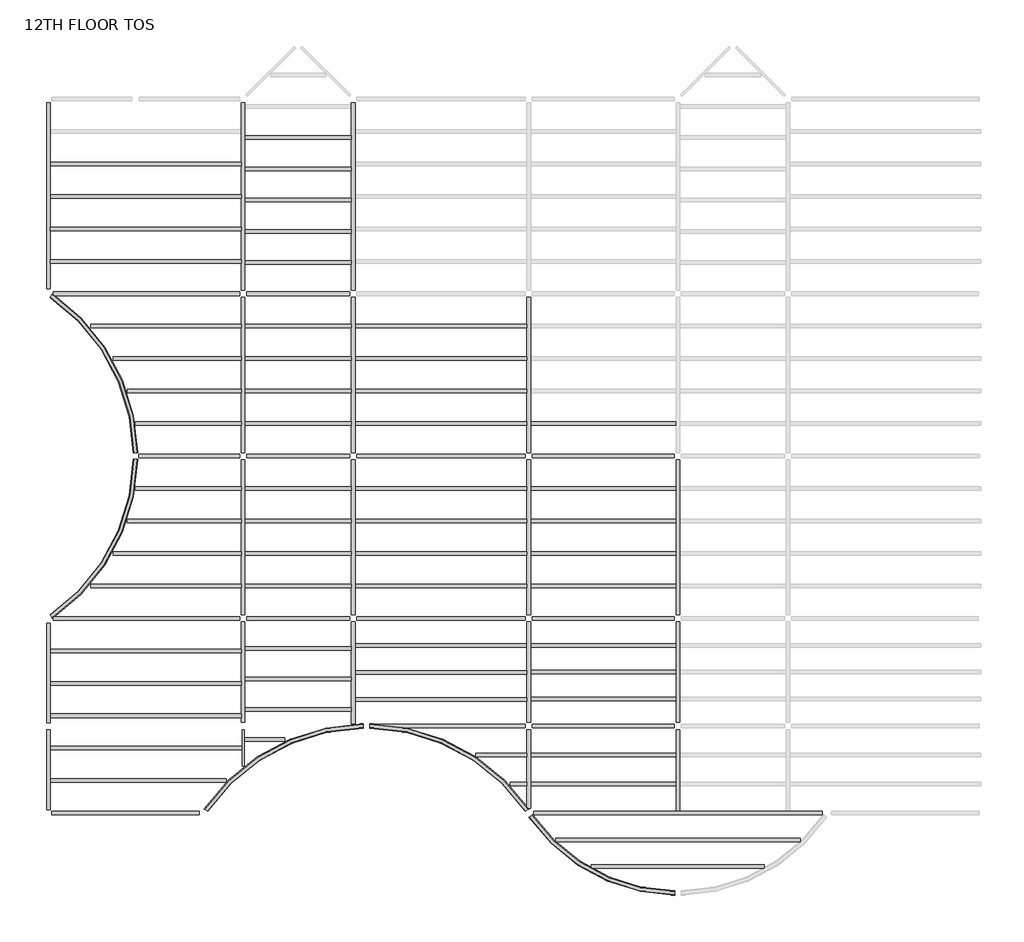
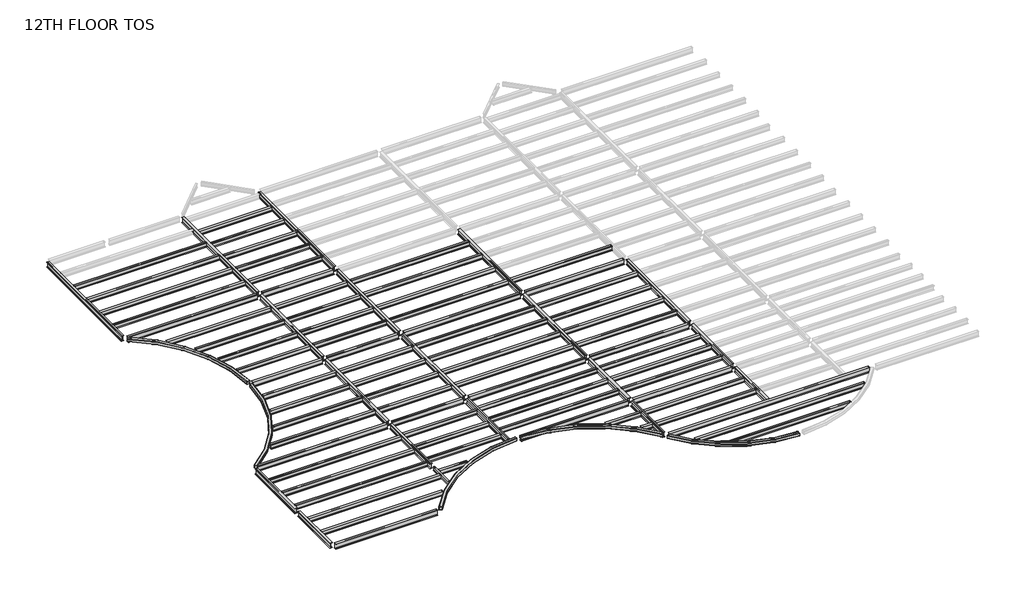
# One storey, part 1 of 2: 97 beams.
"""IFC4 building model written with IfcOpenShell, lengths in millimetres."""

from ifc_helpers import new_model, si_unit, origin, place, context, project, spatial, transform, mapped, element, save
from components import m_hss_square_hss203_2x203_2x9_5_914ff4eb, m_hss_square_hss203_2x203_2x9_5_0e3d8e6e, m_hss_square_hss203_2x203_2x9_5_16dc1c03, m_hss_square_hss203_2x203_2x9_5_18346204, m_hss_square_hss203_2x203_2x9_5_d5f1e8c4, ub_universal_beams_ub254x102x28_4e7f3726, ub_universal_beams_ub305x165x40_c4d0385b, ub_universal_beams_ub305x165x40_d3abc31d, ub_universal_beams_ub305x165x40_0c73730f, ub_universal_beams_ub305x165x40_2a963f0c, ub_universal_beams_ub305x165x40_0a5f2f96, ub_universal_beams_ub305x165x40_d1f7c369, ub_universal_beams_ub305x165x40_83d7b7d5, ub_universal_beams_ub305x165x40_729a4ea5, ub_universal_beams_ub305x165x40_71dfa851, ub_universal_beams_ub305x165x40_619b5398, ub_universal_beams_ub305x165x40_c3492db1, ub_universal_beams_ub305x165x40_8f1c350d, ub_universal_beams_ub305x165x40_3afb5f90, ub_universal_beams_ub305x165x40_767d1929, ub_universal_beams_ub305x165x40_5941ca45, ub_universal_beams_ub356x171x51_ef72dcdd, ub_universal_beams_ub356x171x51_7f80702c, ub_universal_beams_ub356x171x51_dfc36663, ub_universal_beams_ub356x171x51_405a853e, ub_universal_beams_ub356x171x51_e47b7055, ub_universal_beams_ub356x171x51_e97f8d2e, ub_universal_beams_ub356x171x51_11d6b780, ub_universal_beams_ub356x171x51_76b2d20b, ub_universal_beams_ub356x171x51_145ecd4b, ub_universal_beams_ub356x171x51_c7dff8d2, ub_universal_beams_ub356x171x51_834c6e34, ub_universal_beams_ub356x171x51_a38b99de, ub_universal_beams_ub356x171x51_d8f4cdde, ub_universal_beams_ub356x171x51_8094f821, ub_universal_beams_ub356x171x51_c03c70fb, ub_universal_beams_ub356x171x51_e661f2e4, ub_universal_beams_ub356x171x51_3ee91673, ub_universal_beams_ub356x171x51_a871b283, ub_universal_beams_ub356x171x51_741bae58

model = new_model("IFC4")

# Units and contexts
model_context = context("Model", 3, world=origin())
ifc_project = project(units=[si_unit("LENGTHUNIT", "METRE", prefix="MILLI")], contexts=[model_context])

# Site, building, storey
site = spatial("IfcSite", under=ifc_project)
building = spatial("IfcBuilding", under=site)
storey = spatial("IfcBuildingStorey", under=building, Name="12TH FLOOR TOS", Elevation=54711.6)

# Beams
placement = place(None, origin())
m_hss_square_hss203_2x203_2x9_5_shape = m_hss_square_hss203_2x203_2x9_5_914ff4eb(model_context)
element("IfcBeam", 1, ObjectType="M_HSS Square : HSS203.2X203.2X9.5", at=placement, inside=storey, context=model_context, shape_type="MappedRepresentation", body=[
    mapped(m_hss_square_hss203_2x203_2x9_5_shape, transform((22710.575, 155.575, 54610.1), x_axis=(-0.552849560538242, 0.8332810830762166, 0.0), y_axis=(-0.8332810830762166, -0.552849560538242, 0.0), z_axis=(0.0, 0.0, 1.0))),
])
m_hss_square_hss203_2x203_2x9_5_2_shape = m_hss_square_hss203_2x203_2x9_5_0e3d8e6e(model_context)
element("IfcBeam", 2, ObjectType="M_HSS Square : HSS203.2X203.2X9.5", at=placement, inside=storey, context=model_context, shape_type="MappedRepresentation", body=[
    mapped(m_hss_square_hss203_2x203_2x9_5_2_shape, transform((155.575, 9299.575, 54610.1), x_axis=(0.8332810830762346, 0.5528495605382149, 0.0), y_axis=(-0.5528495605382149, 0.8332810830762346, 0.0), z_axis=(0.0, 0.0, 1.0))),
])
m_hss_square_hss203_2x203_2x9_5_3_shape = m_hss_square_hss203_2x203_2x9_5_16dc1c03(model_context)
element("IfcBeam", 3, ObjectType="M_HSS Square : HSS203.2X203.2X9.5", at=placement, inside=storey, context=model_context, shape_type="MappedRepresentation", body=[
    mapped(m_hss_square_hss203_2x203_2x9_5_3_shape, transform((155.575, 24539.575, 54610.1), x_axis=(0.8332810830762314, -0.5528495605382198, 0.0), y_axis=(0.5528495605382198, 0.8332810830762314, 0.0), z_axis=(0.0, 0.0, 1.0))),
])
m_hss_square_hss203_2x203_2x9_5_4_shape = m_hss_square_hss203_2x203_2x9_5_18346204(model_context)
element("IfcBeam", 4, ObjectType="M_HSS Square : HSS203.2X203.2X9.5", at=placement, inside=storey, context=model_context, shape_type="MappedRepresentation", body=[
    mapped(m_hss_square_hss203_2x203_2x9_5_4_shape, transform((29734.7266693, -3601.398624, 54610.1), x_axis=(-0.9999968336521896, -0.0025164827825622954, 0.0), y_axis=(0.0025164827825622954, -0.9999968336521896, 0.0), z_axis=(0.0, 0.0, 1.0))),
])
m_hss_square_hss203_2x203_2x9_5_5_shape = m_hss_square_hss203_2x203_2x9_5_d5f1e8c4(model_context)
element("IfcBeam", 5, ObjectType="M_HSS Square : HSS203.2X203.2X9.5", at=placement, inside=storey, context=model_context, shape_type="MappedRepresentation", body=[
    mapped(m_hss_square_hss203_2x203_2x9_5_5_shape, transform((15096.4572854, 4244.5731081, 54610.1), x_axis=(-0.9999997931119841, 0.0006432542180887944, 0.0), y_axis=(-0.0006432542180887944, -0.9999997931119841, 0.0), z_axis=(0.0, 0.0, 1.0))),
])
ub_universal_beams_ub254x102x28_shape = ub_universal_beams_ub254x102x28_4e7f3726(model_context)
element("IfcBeam", 6, ObjectType="UB-Universal Beams : UB254x102x28", at=placement, inside=storey, context=model_context, shape_type="MappedRepresentation", body=[
    mapped(ub_universal_beams_ub254x102x28_shape, transform((9299.575, 3210.915913, 54581.4), x_axis=(0.0, -1.0, 0.0), y_axis=(1.0, 0.0, 0.0), z_axis=(0.0, 0.0, 1.0))),
])
ub_universal_beams_ub305x165x40_shape = ub_universal_beams_ub305x165x40_c4d0385b(model_context)
element("IfcBeam", 7, ObjectType="UB-Universal Beams : UB305x165x40", at=placement, inside=storey, context=model_context, shape_type="MappedRepresentation", body=[
    mapped(ub_universal_beams_ub305x165x40_shape, transform((4727.575, 30635.575, 54559.9), x_axis=(1.0, 0.0, 0.0), y_axis=(0.0, 1.0, 0.0), z_axis=(0.0, 0.0, 1.0))),
])
element("IfcBeam", 8, ObjectType="UB-Universal Beams : UB305x165x40", at=placement, inside=storey, context=model_context, shape_type="MappedRepresentation", body=[
    mapped(ub_universal_beams_ub305x165x40_shape, transform((4727.575, 29111.575, 54559.9), x_axis=(1.0, 0.0, 0.0), y_axis=(0.0, 1.0, 0.0), z_axis=(0.0, 0.0, 1.0))),
])
element("IfcBeam", 9, ObjectType="UB-Universal Beams : UB305x165x40", at=placement, inside=storey, context=model_context, shape_type="MappedRepresentation", body=[
    mapped(ub_universal_beams_ub305x165x40_shape, transform((4727.575, 27587.575, 54559.9), x_axis=(1.0, 0.0, 0.0), y_axis=(0.0, 1.0, 0.0), z_axis=(0.0, 0.0, 1.0))),
])
element("IfcBeam", 10, ObjectType="UB-Universal Beams : UB305x165x40", at=placement, inside=storey, context=model_context, shape_type="MappedRepresentation", body=[
    mapped(ub_universal_beams_ub305x165x40_shape, transform((4727.575, 26063.575, 54559.9), x_axis=(1.0, 0.0, 0.0), y_axis=(0.0, 1.0, 0.0), z_axis=(0.0, 0.0, 1.0))),
])
element("IfcBeam", 11, ObjectType="UB-Universal Beams : UB305x165x40", at=placement, inside=storey, context=model_context, shape_type="MappedRepresentation", body=[
    mapped(ub_universal_beams_ub305x165x40_shape, transform((4727.575, 4727.575, 54559.9), x_axis=(-1.0, 0.0, 0.0), y_axis=(0.0, -1.0, 0.0), z_axis=(0.0, 0.0, 1.0))),
])
element("IfcBeam", 12, ObjectType="UB-Universal Beams : UB305x165x40", at=placement, inside=storey, context=model_context, shape_type="MappedRepresentation", body=[
    mapped(ub_universal_beams_ub305x165x40_shape, transform((4727.575, 6251.575, 54559.9), x_axis=(-1.0, 0.0, 0.0), y_axis=(0.0, -1.0, 0.0), z_axis=(0.0, 0.0, 1.0))),
])
element("IfcBeam", 13, ObjectType="UB-Universal Beams : UB305x165x40", at=placement, inside=storey, context=model_context, shape_type="MappedRepresentation", body=[
    mapped(ub_universal_beams_ub305x165x40_shape, transform((4727.575, 7775.575, 54559.9), x_axis=(-1.0, 0.0, 0.0), y_axis=(0.0, -1.0, 0.0), z_axis=(0.0, 0.0, 1.0))),
])
ub_universal_beams_ub305x165x40_2_shape = ub_universal_beams_ub305x165x40_d3abc31d(model_context)
element("IfcBeam", 14, ObjectType="UB-Universal Beams : UB305x165x40", at=placement, inside=storey, context=model_context, shape_type="MappedRepresentation", body=[
    mapped(ub_universal_beams_ub305x165x40_2_shape, transform((11885.575, 31870.825, 54559.9), x_axis=(1.0, 0.0, 0.0), y_axis=(0.0, 1.0, 0.0), z_axis=(0.0, 0.0, 1.0))),
])
element("IfcBeam", 15, ObjectType="UB-Universal Beams : UB305x165x40", at=placement, inside=storey, context=model_context, shape_type="MappedRepresentation", body=[
    mapped(ub_universal_beams_ub305x165x40_2_shape, transform((11885.575, 30404.575, 54559.9), x_axis=(1.0, 0.0, 0.0), y_axis=(0.0, 1.0, 0.0), z_axis=(0.0, 0.0, 1.0))),
])
element("IfcBeam", 16, ObjectType="UB-Universal Beams : UB305x165x40", at=placement, inside=storey, context=model_context, shape_type="MappedRepresentation", body=[
    mapped(ub_universal_beams_ub305x165x40_2_shape, transform((11885.575, 28938.325, 54559.9), x_axis=(1.0, 0.0, 0.0), y_axis=(0.0, 1.0, 0.0), z_axis=(0.0, 0.0, 1.0))),
])
element("IfcBeam", 17, ObjectType="UB-Universal Beams : UB305x165x40", at=placement, inside=storey, context=model_context, shape_type="MappedRepresentation", body=[
    mapped(ub_universal_beams_ub305x165x40_2_shape, transform((11885.575, 27472.075, 54559.9), x_axis=(1.0, 0.0, 0.0), y_axis=(0.0, 1.0, 0.0), z_axis=(0.0, 0.0, 1.0))),
])
element("IfcBeam", 18, ObjectType="UB-Universal Beams : UB305x165x40", at=placement, inside=storey, context=model_context, shape_type="MappedRepresentation", body=[
    mapped(ub_universal_beams_ub305x165x40_2_shape, transform((11885.575, 26005.825, 54559.9), x_axis=(1.0, 0.0, 0.0), y_axis=(0.0, 1.0, 0.0), z_axis=(0.0, 0.0, 1.0))),
])
element("IfcBeam", 19, ObjectType="UB-Universal Beams : UB305x165x40", at=placement, inside=storey, context=model_context, shape_type="MappedRepresentation", body=[
    mapped(ub_universal_beams_ub305x165x40_2_shape, transform((11885.575, 23015.575, 54559.9), x_axis=(1.0, 0.0, 0.0), y_axis=(0.0, 1.0, 0.0), z_axis=(0.0, 0.0, 1.0))),
])
element("IfcBeam", 20, ObjectType="UB-Universal Beams : UB305x165x40", at=placement, inside=storey, context=model_context, shape_type="MappedRepresentation", body=[
    mapped(ub_universal_beams_ub305x165x40_2_shape, transform((11885.575, 21491.575, 54559.9), x_axis=(1.0, 0.0, 0.0), y_axis=(0.0, 1.0, 0.0), z_axis=(0.0, 0.0, 1.0))),
])
element("IfcBeam", 21, ObjectType="UB-Universal Beams : UB305x165x40", at=placement, inside=storey, context=model_context, shape_type="MappedRepresentation", body=[
    mapped(ub_universal_beams_ub305x165x40_2_shape, transform((11885.575, 19967.575, 54559.9), x_axis=(1.0, 0.0, 0.0), y_axis=(0.0, 1.0, 0.0), z_axis=(0.0, 0.0, 1.0))),
])
element("IfcBeam", 22, ObjectType="UB-Universal Beams : UB305x165x40", at=placement, inside=storey, context=model_context, shape_type="MappedRepresentation", body=[
    mapped(ub_universal_beams_ub305x165x40_2_shape, transform((11885.575, 18443.575, 54559.9), x_axis=(1.0, 0.0, 0.0), y_axis=(0.0, 1.0, 0.0), z_axis=(0.0, 0.0, 1.0))),
])
element("IfcBeam", 23, ObjectType="UB-Universal Beams : UB305x165x40", at=placement, inside=storey, context=model_context, shape_type="MappedRepresentation", body=[
    mapped(ub_universal_beams_ub305x165x40_2_shape, transform((11885.575, 15395.575, 54559.9), x_axis=(1.0, 0.0, 0.0), y_axis=(0.0, 1.0, 0.0), z_axis=(0.0, 0.0, 1.0))),
])
element("IfcBeam", 24, ObjectType="UB-Universal Beams : UB305x165x40", at=placement, inside=storey, context=model_context, shape_type="MappedRepresentation", body=[
    mapped(ub_universal_beams_ub305x165x40_2_shape, transform((11885.575, 13871.575, 54559.9), x_axis=(1.0, 0.0, 0.0), y_axis=(0.0, 1.0, 0.0), z_axis=(0.0, 0.0, 1.0))),
])
element("IfcBeam", 25, ObjectType="UB-Universal Beams : UB305x165x40", at=placement, inside=storey, context=model_context, shape_type="MappedRepresentation", body=[
    mapped(ub_universal_beams_ub305x165x40_2_shape, transform((11885.575, 12347.575, 54559.9), x_axis=(1.0, 0.0, 0.0), y_axis=(0.0, 1.0, 0.0), z_axis=(0.0, 0.0, 1.0))),
])
element("IfcBeam", 26, ObjectType="UB-Universal Beams : UB305x165x40", at=placement, inside=storey, context=model_context, shape_type="MappedRepresentation", body=[
    mapped(ub_universal_beams_ub305x165x40_2_shape, transform((11885.575, 10823.575, 54559.9), x_axis=(1.0, 0.0, 0.0), y_axis=(0.0, 1.0, 0.0), z_axis=(0.0, 0.0, 1.0))),
])
element("IfcBeam", 27, ObjectType="UB-Universal Beams : UB305x165x40", at=placement, inside=storey, context=model_context, shape_type="MappedRepresentation", body=[
    mapped(ub_universal_beams_ub305x165x40_2_shape, transform((11885.575, 5026.1840956, 54559.9), x_axis=(-1.0, 0.0, 0.0), y_axis=(0.0, -1.0, 0.0), z_axis=(0.0, 0.0, 1.0))),
])
element("IfcBeam", 28, ObjectType="UB-Universal Beams : UB305x165x40", at=placement, inside=storey, context=model_context, shape_type="MappedRepresentation", body=[
    mapped(ub_universal_beams_ub305x165x40_2_shape, transform((11885.575, 6450.6477304, 54559.9), x_axis=(-1.0, 0.0, 0.0), y_axis=(0.0, -1.0, 0.0), z_axis=(0.0, 0.0, 1.0))),
])
element("IfcBeam", 29, ObjectType="UB-Universal Beams : UB305x165x40", at=placement, inside=storey, context=model_context, shape_type="MappedRepresentation", body=[
    mapped(ub_universal_beams_ub305x165x40_2_shape, transform((11885.575, 7875.1113652, 54559.9), x_axis=(-1.0, 0.0, 0.0), y_axis=(0.0, -1.0, 0.0), z_axis=(0.0, 0.0, 1.0))),
])
ub_universal_beams_ub305x165x40_3_shape = ub_universal_beams_ub305x165x40_0c73730f(model_context)
element("IfcBeam", 30, ObjectType="UB-Universal Beams : UB305x165x40", at=placement, inside=storey, context=model_context, shape_type="MappedRepresentation", body=[
    mapped(ub_universal_beams_ub305x165x40_3_shape, transform((18591.075, 5492.5943214, 54559.9), x_axis=(-1.0, 0.0, 0.0), y_axis=(0.0, -1.0, 0.0), z_axis=(0.0, 0.0, 1.0))),
])
element("IfcBeam", 31, ObjectType="UB-Universal Beams : UB305x165x40", at=placement, inside=storey, context=model_context, shape_type="MappedRepresentation", body=[
    mapped(ub_universal_beams_ub305x165x40_3_shape, transform((18591.075, 6761.5878809, 54559.9), x_axis=(-1.0, 0.0, 0.0), y_axis=(0.0, -1.0, 0.0), z_axis=(0.0, 0.0, 1.0))),
])
element("IfcBeam", 32, ObjectType="UB-Universal Beams : UB305x165x40", at=placement, inside=storey, context=model_context, shape_type="MappedRepresentation", body=[
    mapped(ub_universal_beams_ub305x165x40_3_shape, transform((18591.075, 8030.5814405, 54559.9), x_axis=(-1.0, 0.0, 0.0), y_axis=(0.0, -1.0, 0.0), z_axis=(0.0, 0.0, 1.0))),
])
element("IfcBeam", 33, ObjectType="UB-Universal Beams : UB305x165x40", at=placement, inside=storey, context=model_context, shape_type="MappedRepresentation", body=[
    mapped(ub_universal_beams_ub305x165x40_3_shape, transform((18591.075, 15395.575, 54559.9), x_axis=(1.0, 0.0, 0.0), y_axis=(0.0, 1.0, 0.0), z_axis=(0.0, 0.0, 1.0))),
])
element("IfcBeam", 34, ObjectType="UB-Universal Beams : UB305x165x40", at=placement, inside=storey, context=model_context, shape_type="MappedRepresentation", body=[
    mapped(ub_universal_beams_ub305x165x40_3_shape, transform((18591.075, 13871.575, 54559.9), x_axis=(1.0, 0.0, 0.0), y_axis=(0.0, 1.0, 0.0), z_axis=(0.0, 0.0, 1.0))),
])
element("IfcBeam", 35, ObjectType="UB-Universal Beams : UB305x165x40", at=placement, inside=storey, context=model_context, shape_type="MappedRepresentation", body=[
    mapped(ub_universal_beams_ub305x165x40_3_shape, transform((18591.075, 12347.575, 54559.9), x_axis=(1.0, 0.0, 0.0), y_axis=(0.0, 1.0, 0.0), z_axis=(0.0, 0.0, 1.0))),
])
element("IfcBeam", 36, ObjectType="UB-Universal Beams : UB305x165x40", at=placement, inside=storey, context=model_context, shape_type="MappedRepresentation", body=[
    mapped(ub_universal_beams_ub305x165x40_3_shape, transform((18591.075, 10823.575, 54559.9), x_axis=(1.0, 0.0, 0.0), y_axis=(0.0, 1.0, 0.0), z_axis=(0.0, 0.0, 1.0))),
])
element("IfcBeam", 37, ObjectType="UB-Universal Beams : UB305x165x40", at=placement, inside=storey, context=model_context, shape_type="MappedRepresentation", body=[
    mapped(ub_universal_beams_ub305x165x40_3_shape, transform((18591.075, 23015.575, 54559.9), x_axis=(1.0, 0.0, 0.0), y_axis=(0.0, 1.0, 0.0), z_axis=(0.0, 0.0, 1.0))),
])
element("IfcBeam", 38, ObjectType="UB-Universal Beams : UB305x165x40", at=placement, inside=storey, context=model_context, shape_type="MappedRepresentation", body=[
    mapped(ub_universal_beams_ub305x165x40_3_shape, transform((18591.075, 21491.575, 54559.9), x_axis=(1.0, 0.0, 0.0), y_axis=(0.0, 1.0, 0.0), z_axis=(0.0, 0.0, 1.0))),
])
element("IfcBeam", 39, ObjectType="UB-Universal Beams : UB305x165x40", at=placement, inside=storey, context=model_context, shape_type="MappedRepresentation", body=[
    mapped(ub_universal_beams_ub305x165x40_3_shape, transform((18591.075, 19967.575, 54559.9), x_axis=(1.0, 0.0, 0.0), y_axis=(0.0, 1.0, 0.0), z_axis=(0.0, 0.0, 1.0))),
])
element("IfcBeam", 40, ObjectType="UB-Universal Beams : UB305x165x40", at=placement, inside=storey, context=model_context, shape_type="MappedRepresentation", body=[
    mapped(ub_universal_beams_ub305x165x40_3_shape, transform((18591.075, 18443.575, 54559.9), x_axis=(1.0, 0.0, 0.0), y_axis=(0.0, 1.0, 0.0), z_axis=(0.0, 0.0, 1.0))),
])
ub_universal_beams_ub305x165x40_4_shape = ub_universal_beams_ub305x165x40_2a963f0c(model_context)
element("IfcBeam", 41, ObjectType="UB-Universal Beams : UB305x165x40", at=placement, inside=storey, context=model_context, shape_type="MappedRepresentation", body=[
    mapped(ub_universal_beams_ub305x165x40_4_shape, transform((26211.075, 18443.575, 54559.9), x_axis=(1.0, 0.0, 0.0), y_axis=(0.0, 1.0, 0.0), z_axis=(0.0, 0.0, 1.0))),
])
element("IfcBeam", 42, ObjectType="UB-Universal Beams : UB305x165x40", at=placement, inside=storey, context=model_context, shape_type="MappedRepresentation", body=[
    mapped(ub_universal_beams_ub305x165x40_4_shape, transform((26211.075, 15395.575, 54559.9), x_axis=(1.0, 0.0, 0.0), y_axis=(0.0, 1.0, 0.0), z_axis=(0.0, 0.0, 1.0))),
])
element("IfcBeam", 43, ObjectType="UB-Universal Beams : UB305x165x40", at=placement, inside=storey, context=model_context, shape_type="MappedRepresentation", body=[
    mapped(ub_universal_beams_ub305x165x40_4_shape, transform((26211.075, 13871.575, 54559.9), x_axis=(1.0, 0.0, 0.0), y_axis=(0.0, 1.0, 0.0), z_axis=(0.0, 0.0, 1.0))),
])
element("IfcBeam", 44, ObjectType="UB-Universal Beams : UB305x165x40", at=placement, inside=storey, context=model_context, shape_type="MappedRepresentation", body=[
    mapped(ub_universal_beams_ub305x165x40_4_shape, transform((26211.075, 12347.575, 54559.9), x_axis=(1.0, 0.0, 0.0), y_axis=(0.0, 1.0, 0.0), z_axis=(0.0, 0.0, 1.0))),
])
element("IfcBeam", 45, ObjectType="UB-Universal Beams : UB305x165x40", at=placement, inside=storey, context=model_context, shape_type="MappedRepresentation", body=[
    mapped(ub_universal_beams_ub305x165x40_4_shape, transform((26211.075, 10823.575, 54559.9), x_axis=(1.0, 0.0, 0.0), y_axis=(0.0, 1.0, 0.0), z_axis=(0.0, 0.0, 1.0))),
])
element("IfcBeam", 46, ObjectType="UB-Universal Beams : UB305x165x40", at=placement, inside=storey, context=model_context, shape_type="MappedRepresentation", body=[
    mapped(ub_universal_beams_ub305x165x40_4_shape, transform((26211.075, 5508.325, 54559.9), x_axis=(-1.0, 0.0, 0.0), y_axis=(0.0, -1.0, 0.0), z_axis=(0.0, 0.0, 1.0))),
])
element("IfcBeam", 47, ObjectType="UB-Universal Beams : UB305x165x40", at=placement, inside=storey, context=model_context, shape_type="MappedRepresentation", body=[
    mapped(ub_universal_beams_ub305x165x40_4_shape, transform((26211.075, 6772.075, 54559.9), x_axis=(-1.0, 0.0, 0.0), y_axis=(0.0, -1.0, 0.0), z_axis=(0.0, 0.0, 1.0))),
])
element("IfcBeam", 48, ObjectType="UB-Universal Beams : UB305x165x40", at=placement, inside=storey, context=model_context, shape_type="MappedRepresentation", body=[
    mapped(ub_universal_beams_ub305x165x40_4_shape, transform((26211.075, 8035.825, 54559.9), x_axis=(-1.0, 0.0, 0.0), y_axis=(0.0, -1.0, 0.0), z_axis=(0.0, 0.0, 1.0))),
])
element("IfcBeam", 49, ObjectType="UB-Universal Beams : UB305x165x40", at=placement, inside=storey, context=model_context, shape_type="MappedRepresentation", body=[
    mapped(ub_universal_beams_ub305x165x40_4_shape, transform((26211.075, 1518.575, 54559.9), x_axis=(-1.0, 0.0, 0.0), y_axis=(0.0, -1.0, 0.0), z_axis=(0.0, 0.0, 1.0))),
])
element("IfcBeam", 50, ObjectType="UB-Universal Beams : UB305x165x40", at=placement, inside=storey, context=model_context, shape_type="MappedRepresentation", body=[
    mapped(ub_universal_beams_ub305x165x40_4_shape, transform((26211.075, 2881.575, 54559.9), x_axis=(-1.0, 0.0, 0.0), y_axis=(0.0, -1.0, 0.0), z_axis=(0.0, 0.0, 1.0))),
])
ub_universal_beams_ub305x165x40_5_shape = ub_universal_beams_ub305x165x40_0a5f2f96(model_context)
element("IfcBeam", 51, ObjectType="UB-Universal Beams : UB305x165x40", at=placement, inside=storey, context=model_context, shape_type="MappedRepresentation", body=[
    mapped(ub_universal_beams_ub305x165x40_5_shape, transform((29713.575, -2349.0918253, 54559.9), x_axis=(-1.0, 0.0, 0.0), y_axis=(0.0, -1.0, 0.0), z_axis=(0.0, 0.0, 1.0))),
])
ub_universal_beams_ub305x165x40_6_shape = ub_universal_beams_ub305x165x40_d1f7c369(model_context)
element("IfcBeam", 52, ObjectType="UB-Universal Beams : UB305x165x40", at=placement, inside=storey, context=model_context, shape_type="MappedRepresentation", body=[
    mapped(ub_universal_beams_ub305x165x40_6_shape, transform((29713.575, -1096.7584126, 54559.9), x_axis=(-1.0, 0.0, 0.0), y_axis=(0.0, -1.0, 0.0), z_axis=(0.0, 0.0, 1.0))),
])
ub_universal_beams_ub305x165x40_7_shape = ub_universal_beams_ub305x165x40_83d7b7d5(model_context)
element("IfcBeam", 53, ObjectType="UB-Universal Beams : UB305x165x40", at=placement, inside=storey, context=model_context, shape_type="MappedRepresentation", body=[
    mapped(ub_universal_beams_ub305x165x40_7_shape, transform((22157.3041106, 1518.575, 54559.9), x_axis=(-1.0, 0.0, 0.0), y_axis=(0.0, -1.0, 0.0), z_axis=(0.0, 0.0, 1.0))),
])
ub_universal_beams_ub305x165x40_8_shape = ub_universal_beams_ub305x165x40_729a4ea5(model_context)
element("IfcBeam", 54, ObjectType="UB-Universal Beams : UB305x165x40", at=placement, inside=storey, context=model_context, shape_type="MappedRepresentation", body=[
    mapped(ub_universal_beams_ub305x165x40_8_shape, transform((21302.1545844, 2881.575, 54559.9), x_axis=(-1.0, 0.0, 0.0), y_axis=(0.0, -1.0, 0.0), z_axis=(0.0, 0.0, 1.0))),
])
ub_universal_beams_ub305x165x40_9_shape = ub_universal_beams_ub305x165x40_71dfa851(model_context)
element("IfcBeam", 55, ObjectType="UB-Universal Beams : UB305x165x40", at=placement, inside=storey, context=model_context, shape_type="MappedRepresentation", body=[
    mapped(ub_universal_beams_ub305x165x40_9_shape, transform((10511.0323166, 3601.7204608, 54559.9), x_axis=(-1.0, 0.0, 0.0), y_axis=(0.0, -1.0, 0.0), z_axis=(0.0, 0.0, 1.0))),
])
ub_universal_beams_ub305x165x40_10_shape = ub_universal_beams_ub305x165x40_619b5398(model_context)
element("IfcBeam", 56, ObjectType="UB-Universal Beams : UB305x165x40", at=placement, inside=storey, context=model_context, shape_type="MappedRepresentation", body=[
    mapped(ub_universal_beams_ub305x165x40_10_shape, transform((4447.6838282, 1679.575, 54559.9), x_axis=(-1.0, 0.0, 0.0), y_axis=(0.0, -1.0, 0.0), z_axis=(0.0, 0.0, 1.0))),
])
ub_universal_beams_ub305x165x40_11_shape = ub_universal_beams_ub305x165x40_c3492db1(model_context)
element("IfcBeam", 57, ObjectType="UB-Universal Beams : UB305x165x40", at=placement, inside=storey, context=model_context, shape_type="MappedRepresentation", body=[
    mapped(ub_universal_beams_ub305x165x40_11_shape, transform((4727.575, 3203.575, 54559.9), x_axis=(-1.0, 0.0, 0.0), y_axis=(0.0, -1.0, 0.0), z_axis=(0.0, 0.0, 1.0))),
])
ub_universal_beams_ub305x165x40_12_shape = ub_universal_beams_ub305x165x40_8f1c350d(model_context)
element("IfcBeam", 58, ObjectType="UB-Universal Beams : UB305x165x40", at=placement, inside=storey, context=model_context, shape_type="MappedRepresentation", body=[
    mapped(ub_universal_beams_ub305x165x40_12_shape, transform((6708.1318611, 15395.575, 54559.9), x_axis=(1.0, 0.0, 0.0), y_axis=(0.0, 1.0, 0.0), z_axis=(0.0, 0.0, 1.0))),
])
element("IfcBeam", 59, ObjectType="UB-Universal Beams : UB305x165x40", at=placement, inside=storey, context=model_context, shape_type="MappedRepresentation", body=[
    mapped(ub_universal_beams_ub305x165x40_12_shape, transform((6708.1318611, 18443.575, 54559.9), x_axis=(1.0, 0.0, 0.0), y_axis=(0.0, 1.0, 0.0), z_axis=(0.0, 0.0, 1.0))),
])
ub_universal_beams_ub305x165x40_13_shape = ub_universal_beams_ub305x165x40_3afb5f90(model_context)
element("IfcBeam", 60, ObjectType="UB-Universal Beams : UB305x165x40", at=placement, inside=storey, context=model_context, shape_type="MappedRepresentation", body=[
    mapped(ub_universal_beams_ub305x165x40_13_shape, transform((6510.6153272, 13871.575, 54559.9), x_axis=(1.0, 0.0, 0.0), y_axis=(0.0, 1.0, 0.0), z_axis=(0.0, 0.0, 1.0))),
])
element("IfcBeam", 61, ObjectType="UB-Universal Beams : UB305x165x40", at=placement, inside=storey, context=model_context, shape_type="MappedRepresentation", body=[
    mapped(ub_universal_beams_ub305x165x40_13_shape, transform((6510.6153272, 19967.575, 54559.9), x_axis=(1.0, 0.0, 0.0), y_axis=(0.0, 1.0, 0.0), z_axis=(0.0, 0.0, 1.0))),
])
ub_universal_beams_ub305x165x40_14_shape = ub_universal_beams_ub305x165x40_767d1929(model_context)
element("IfcBeam", 62, ObjectType="UB-Universal Beams : UB305x165x40", at=placement, inside=storey, context=model_context, shape_type="MappedRepresentation", body=[
    mapped(ub_universal_beams_ub305x165x40_14_shape, transform((6159.5874928, 12347.575, 54559.9), x_axis=(1.0, 0.0, 0.0), y_axis=(0.0, 1.0, 0.0), z_axis=(0.0, 0.0, 1.0))),
])
element("IfcBeam", 63, ObjectType="UB-Universal Beams : UB305x165x40", at=placement, inside=storey, context=model_context, shape_type="MappedRepresentation", body=[
    mapped(ub_universal_beams_ub305x165x40_14_shape, transform((6159.5874928, 21491.575, 54559.9), x_axis=(1.0, 0.0, 0.0), y_axis=(0.0, 1.0, 0.0), z_axis=(0.0, 0.0, 1.0))),
])
ub_universal_beams_ub305x165x40_15_shape = ub_universal_beams_ub305x165x40_5941ca45(model_context)
element("IfcBeam", 64, ObjectType="UB-Universal Beams : UB305x165x40", at=placement, inside=storey, context=model_context, shape_type="MappedRepresentation", body=[
    mapped(ub_universal_beams_ub305x165x40_15_shape, transform((5607.9405309, 10823.575, 54559.9), x_axis=(1.0, 0.0, 0.0), y_axis=(0.0, 1.0, 0.0), z_axis=(0.0, 0.0, 1.0))),
])
element("IfcBeam", 65, ObjectType="UB-Universal Beams : UB305x165x40", at=placement, inside=storey, context=model_context, shape_type="MappedRepresentation", body=[
    mapped(ub_universal_beams_ub305x165x40_15_shape, transform((5607.9405309, 23015.575, 54559.9), x_axis=(1.0, 0.0, 0.0), y_axis=(0.0, 1.0, 0.0), z_axis=(0.0, 0.0, 1.0))),
])
ub_universal_beams_ub356x171x51_shape = ub_universal_beams_ub356x171x51_ef72dcdd(model_context)
element("IfcBeam", 66, ObjectType="UB-Universal Beams : UB356x171x51", at=placement, inside=storey, context=model_context, shape_type="MappedRepresentation", body=[
    mapped(ub_universal_beams_ub356x171x51_shape, transform((9299.575, 6772.075, 54534.1), x_axis=(0.0, -1.0, 0.0), y_axis=(1.0, 0.0, 0.0), z_axis=(0.0, 0.0, 1.0))),
])
element("IfcBeam", 67, ObjectType="UB-Universal Beams : UB356x171x51", at=placement, inside=storey, context=model_context, shape_type="MappedRepresentation", body=[
    mapped(ub_universal_beams_ub356x171x51_shape, transform((29711.575, 6772.075, 54534.1), x_axis=(0.0, 1.0, 0.0), y_axis=(-1.0, 0.0, 0.0), z_axis=(0.0, 0.0, 1.0))),
])
element("IfcBeam", 68, ObjectType="UB-Universal Beams : UB356x171x51", at=placement, inside=storey, context=model_context, shape_type="MappedRepresentation", body=[
    mapped(ub_universal_beams_ub356x171x51_shape, transform((22710.575, 6772.075, 54534.1), x_axis=(0.0, -1.0, 0.0), y_axis=(1.0, 0.0, 0.0), z_axis=(0.0, 0.0, 1.0))),
])
ub_universal_beams_ub356x171x51_2_shape = ub_universal_beams_ub356x171x51_7f80702c(model_context)
element("IfcBeam", 69, ObjectType="UB-Universal Beams : UB356x171x51", at=placement, inside=storey, context=model_context, shape_type="MappedRepresentation", body=[
    mapped(ub_universal_beams_ub356x171x51_2_shape, transform((3813.075, 155.575, 54534.1), x_axis=(-1.0, 0.0, 0.0), y_axis=(0.0, -1.0, 0.0), z_axis=(0.0, 0.0, 1.0))),
])
ub_universal_beams_ub356x171x51_3_shape = ub_universal_beams_ub356x171x51_dfc36663(model_context)
element("IfcBeam", 70, ObjectType="UB-Universal Beams : UB356x171x51", at=placement, inside=storey, context=model_context, shape_type="MappedRepresentation", body=[
    mapped(ub_universal_beams_ub356x171x51_3_shape, transform((155.575, 2200.075, 54534.1), x_axis=(0.0, 1.0, 0.0), y_axis=(-1.0, 0.0, 0.0), z_axis=(0.0, 0.0, 1.0))),
])
ub_universal_beams_ub356x171x51_4_shape = ub_universal_beams_ub356x171x51_405a853e(model_context)
element("IfcBeam", 71, ObjectType="UB-Universal Beams : UB356x171x51", at=placement, inside=storey, context=model_context, shape_type="MappedRepresentation", body=[
    mapped(ub_universal_beams_ub356x171x51_4_shape, transform((155.575, 6772.075, 54534.1), x_axis=(0.0, 1.0, 0.0), y_axis=(-1.0, 0.0, 0.0), z_axis=(0.0, 0.0, 1.0))),
])
ub_universal_beams_ub356x171x51_5_shape = ub_universal_beams_ub356x171x51_e47b7055(model_context)
element("IfcBeam", 72, ObjectType="UB-Universal Beams : UB356x171x51", at=placement, inside=storey, context=model_context, shape_type="MappedRepresentation", body=[
    mapped(ub_universal_beams_ub356x171x51_5_shape, transform((155.575, 29111.575, 54534.1), x_axis=(0.0, 1.0, 0.0), y_axis=(-1.0, 0.0, 0.0), z_axis=(0.0, 0.0, 1.0))),
])
ub_universal_beams_ub356x171x51_6_shape = ub_universal_beams_ub356x171x51_e97f8d2e(model_context)
element("IfcBeam", 73, ObjectType="UB-Universal Beams : UB356x171x51", at=placement, inside=storey, context=model_context, shape_type="MappedRepresentation", body=[
    mapped(ub_universal_beams_ub356x171x51_6_shape, transform((4727.575, 24539.575, 54534.1), x_axis=(1.0, 0.0, 0.0), y_axis=(0.0, 1.0, 0.0), z_axis=(0.0, 0.0, 1.0))),
])
ub_universal_beams_ub356x171x51_7_shape = ub_universal_beams_ub356x171x51_11d6b780(model_context)
element("IfcBeam", 74, ObjectType="UB-Universal Beams : UB356x171x51", at=placement, inside=storey, context=model_context, shape_type="MappedRepresentation", body=[
    mapped(ub_universal_beams_ub356x171x51_7_shape, transform((11885.575, 24539.575, 54534.1), x_axis=(1.0, 0.0, 0.0), y_axis=(0.0, 1.0, 0.0), z_axis=(0.0, 0.0, 1.0))),
])
element("IfcBeam", 75, ObjectType="UB-Universal Beams : UB356x171x51", at=placement, inside=storey, context=model_context, shape_type="MappedRepresentation", body=[
    mapped(ub_universal_beams_ub356x171x51_7_shape, transform((11885.575, 9299.575, 54534.1), x_axis=(-1.0, 0.0, 0.0), y_axis=(0.0, -1.0, 0.0), z_axis=(0.0, 0.0, 1.0))),
])
element("IfcBeam", 76, ObjectType="UB-Universal Beams : UB356x171x51", at=placement, inside=storey, context=model_context, shape_type="MappedRepresentation", body=[
    mapped(ub_universal_beams_ub356x171x51_7_shape, transform((11885.575, 16919.575, 54534.1), x_axis=(1.0, 0.0, 0.0), y_axis=(0.0, 1.0, 0.0), z_axis=(0.0, 0.0, 1.0))),
])
ub_universal_beams_ub356x171x51_8_shape = ub_universal_beams_ub356x171x51_76b2d20b(model_context)
element("IfcBeam", 77, ObjectType="UB-Universal Beams : UB356x171x51", at=placement, inside=storey, context=model_context, shape_type="MappedRepresentation", body=[
    mapped(ub_universal_beams_ub356x171x51_8_shape, transform((18591.075, 9299.575, 54534.1), x_axis=(-1.0, 0.0, 0.0), y_axis=(0.0, -1.0, 0.0), z_axis=(0.0, 0.0, 1.0))),
])
element("IfcBeam", 78, ObjectType="UB-Universal Beams : UB356x171x51", at=placement, inside=storey, context=model_context, shape_type="MappedRepresentation", body=[
    mapped(ub_universal_beams_ub356x171x51_8_shape, transform((18591.075, 16919.575, 54534.1), x_axis=(1.0, 0.0, 0.0), y_axis=(0.0, 1.0, 0.0), z_axis=(0.0, 0.0, 1.0))),
])
ub_universal_beams_ub356x171x51_9_shape = ub_universal_beams_ub356x171x51_145ecd4b(model_context)
element("IfcBeam", 79, ObjectType="UB-Universal Beams : UB356x171x51", at=placement, inside=storey, context=model_context, shape_type="MappedRepresentation", body=[
    mapped(ub_universal_beams_ub356x171x51_9_shape, transform((26211.075, 9299.575, 54534.1), x_axis=(-1.0, 0.0, 0.0), y_axis=(0.0, -1.0, 0.0), z_axis=(0.0, 0.0, 1.0))),
])
element("IfcBeam", 80, ObjectType="UB-Universal Beams : UB356x171x51", at=placement, inside=storey, context=model_context, shape_type="MappedRepresentation", body=[
    mapped(ub_universal_beams_ub356x171x51_9_shape, transform((26211.075, 16919.575, 54534.1), x_axis=(1.0, 0.0, 0.0), y_axis=(0.0, 1.0, 0.0), z_axis=(0.0, 0.0, 1.0))),
])
element("IfcBeam", 81, ObjectType="UB-Universal Beams : UB356x171x51", at=placement, inside=storey, context=model_context, shape_type="MappedRepresentation", body=[
    mapped(ub_universal_beams_ub356x171x51_9_shape, transform((26211.075, 4244.575, 54534.1), x_axis=(-1.0, 0.0, 0.0), y_axis=(0.0, -1.0, 0.0), z_axis=(0.0, 0.0, 1.0))),
])
ub_universal_beams_ub356x171x51_10_shape = ub_universal_beams_ub356x171x51_c7dff8d2(model_context)
element("IfcBeam", 82, ObjectType="UB-Universal Beams : UB356x171x51", at=placement, inside=storey, context=model_context, shape_type="MappedRepresentation", body=[
    mapped(ub_universal_beams_ub356x171x51_10_shape, transform((4727.575, 9299.575, 54534.1), x_axis=(-1.0, 0.0, 0.0), y_axis=(0.0, -1.0, 0.0), z_axis=(0.0, 0.0, 1.0))),
])
ub_universal_beams_ub356x171x51_11_shape = ub_universal_beams_ub356x171x51_834c6e34(model_context)
element("IfcBeam", 83, ObjectType="UB-Universal Beams : UB356x171x51", at=placement, inside=storey, context=model_context, shape_type="MappedRepresentation", body=[
    mapped(ub_universal_beams_ub356x171x51_11_shape, transform((14471.575, 6761.5878809, 54534.1), x_axis=(0.0, -1.0, 0.0), y_axis=(1.0, 0.0, 0.0), z_axis=(0.0, 0.0, 1.0))),
])
ub_universal_beams_ub356x171x51_12_shape = ub_universal_beams_ub356x171x51_a38b99de(model_context)
element("IfcBeam", 84, ObjectType="UB-Universal Beams : UB356x171x51", at=placement, inside=storey, context=model_context, shape_type="MappedRepresentation", body=[
    mapped(ub_universal_beams_ub356x171x51_12_shape, transform((9299.575, 13109.575, 54534.1), x_axis=(0.0, 1.0, 0.0), y_axis=(-1.0, 0.0, 0.0), z_axis=(0.0, 0.0, 1.0))),
])
element("IfcBeam", 85, ObjectType="UB-Universal Beams : UB356x171x51", at=placement, inside=storey, context=model_context, shape_type="MappedRepresentation", body=[
    mapped(ub_universal_beams_ub356x171x51_12_shape, transform((9299.575, 20729.575, 54534.1), x_axis=(0.0, 1.0, 0.0), y_axis=(-1.0, 0.0, 0.0), z_axis=(0.0, 0.0, 1.0))),
])
element("IfcBeam", 86, ObjectType="UB-Universal Beams : UB356x171x51", at=placement, inside=storey, context=model_context, shape_type="MappedRepresentation", body=[
    mapped(ub_universal_beams_ub356x171x51_12_shape, transform((14471.575, 20729.575, 54534.1), x_axis=(0.0, -1.0, 0.0), y_axis=(1.0, 0.0, 0.0), z_axis=(0.0, 0.0, 1.0))),
])
element("IfcBeam", 87, ObjectType="UB-Universal Beams : UB356x171x51", at=placement, inside=storey, context=model_context, shape_type="MappedRepresentation", body=[
    mapped(ub_universal_beams_ub356x171x51_12_shape, transform((14471.575, 13109.575, 54534.1), x_axis=(0.0, -1.0, 0.0), y_axis=(1.0, 0.0, 0.0), z_axis=(0.0, 0.0, 1.0))),
])
element("IfcBeam", 88, ObjectType="UB-Universal Beams : UB356x171x51", at=placement, inside=storey, context=model_context, shape_type="MappedRepresentation", body=[
    mapped(ub_universal_beams_ub356x171x51_12_shape, transform((22710.575, 20729.575, 54534.1), x_axis=(0.0, -1.0, 0.0), y_axis=(1.0, 0.0, 0.0), z_axis=(0.0, 0.0, 1.0))),
])
element("IfcBeam", 89, ObjectType="UB-Universal Beams : UB356x171x51", at=placement, inside=storey, context=model_context, shape_type="MappedRepresentation", body=[
    mapped(ub_universal_beams_ub356x171x51_12_shape, transform((22710.575, 13109.575, 54534.1), x_axis=(0.0, -1.0, 0.0), y_axis=(1.0, 0.0, 0.0), z_axis=(0.0, 0.0, 1.0))),
])
element("IfcBeam", 90, ObjectType="UB-Universal Beams : UB356x171x51", at=placement, inside=storey, context=model_context, shape_type="MappedRepresentation", body=[
    mapped(ub_universal_beams_ub356x171x51_12_shape, transform((29711.575, 13109.575, 54534.1), x_axis=(0.0, 1.0, 0.0), y_axis=(-1.0, 0.0, 0.0), z_axis=(0.0, 0.0, 1.0))),
])
ub_universal_beams_ub356x171x51_13_shape = ub_universal_beams_ub356x171x51_d8f4cdde(model_context)
element("IfcBeam", 91, ObjectType="UB-Universal Beams : UB356x171x51", at=placement, inside=storey, context=model_context, shape_type="MappedRepresentation", body=[
    mapped(ub_universal_beams_ub356x171x51_13_shape, transform((9299.575, 29111.575, 54534.1), x_axis=(0.0, 1.0, 0.0), y_axis=(-1.0, 0.0, 0.0), z_axis=(0.0, 0.0, 1.0))),
])
ub_universal_beams_ub356x171x51_14_shape = ub_universal_beams_ub356x171x51_8094f821(model_context)
element("IfcBeam", 92, ObjectType="UB-Universal Beams : UB356x171x51", at=placement, inside=storey, context=model_context, shape_type="MappedRepresentation", body=[
    mapped(ub_universal_beams_ub356x171x51_14_shape, transform((6772.075, 16919.575, 54534.1), x_axis=(1.0, 0.0, 0.0), y_axis=(0.0, 1.0, 0.0), z_axis=(0.0, 0.0, 1.0))),
])
ub_universal_beams_ub356x171x51_15_shape = ub_universal_beams_ub356x171x51_c03c70fb(model_context)
element("IfcBeam", 93, ObjectType="UB-Universal Beams : UB356x171x51", at=placement, inside=storey, context=model_context, shape_type="MappedRepresentation", body=[
    mapped(ub_universal_beams_ub356x171x51_15_shape, transform((14471.575, 29111.575, 54534.1), x_axis=(0.0, -1.0, 0.0), y_axis=(1.0, 0.0, 0.0), z_axis=(0.0, 0.0, 1.0))),
])
ub_universal_beams_ub356x171x51_16_shape = ub_universal_beams_ub356x171x51_e661f2e4(model_context)
element("IfcBeam", 94, ObjectType="UB-Universal Beams : UB356x171x51", at=placement, inside=storey, context=model_context, shape_type="MappedRepresentation", body=[
    mapped(ub_universal_beams_ub356x171x51_16_shape, transform((29713.575, 155.575, 54534.1), x_axis=(-1.0, 0.0, 0.0), y_axis=(0.0, -1.0, 0.0), z_axis=(0.0, 0.0, 1.0))),
])
ub_universal_beams_ub356x171x51_17_shape = ub_universal_beams_ub356x171x51_3ee91673(model_context)
element("IfcBeam", 95, ObjectType="UB-Universal Beams : UB356x171x51", at=placement, inside=storey, context=model_context, shape_type="MappedRepresentation", body=[
    mapped(ub_universal_beams_ub356x171x51_17_shape, transform((18900.575, 4244.575, 54534.1), x_axis=(-1.0, 0.0, 0.0), y_axis=(0.0, -1.0, 0.0), z_axis=(0.0, 0.0, 1.0))),
])
ub_universal_beams_ub356x171x51_18_shape = ub_universal_beams_ub356x171x51_a871b283(model_context)
element("IfcBeam", 96, ObjectType="UB-Universal Beams : UB356x171x51", at=placement, inside=storey, context=model_context, shape_type="MappedRepresentation", body=[
    mapped(ub_universal_beams_ub356x171x51_18_shape, transform((22710.575, 2200.075, 54534.1), x_axis=(0.0, -1.0, 0.0), y_axis=(1.0, 0.0, 0.0), z_axis=(0.0, 0.0, 1.0))),
])
ub_universal_beams_ub356x171x51_19_shape = ub_universal_beams_ub356x171x51_741bae58(model_context)
element("IfcBeam", 97, ObjectType="UB-Universal Beams : UB356x171x51", at=placement, inside=storey, context=model_context, shape_type="MappedRepresentation", body=[
    mapped(ub_universal_beams_ub356x171x51_19_shape, transform((29711.575, 2200.075, 54534.1), x_axis=(0.0, -1.0, 0.0), y_axis=(1.0, 0.0, 0.0), z_axis=(0.0, 0.0, 1.0))),
])

save(model, "model.ifc")
